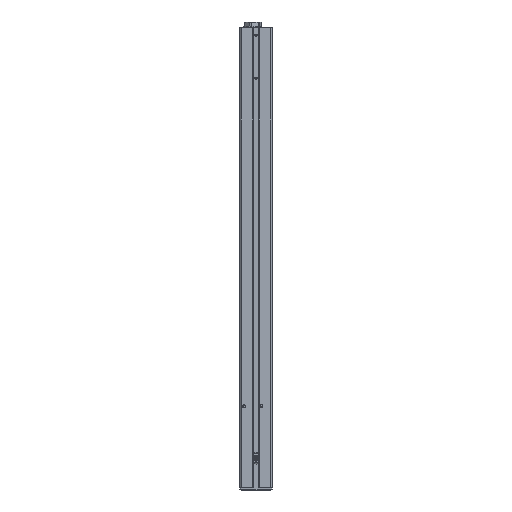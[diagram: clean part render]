
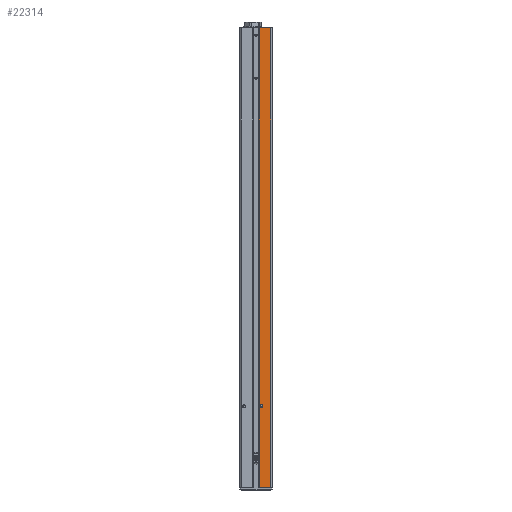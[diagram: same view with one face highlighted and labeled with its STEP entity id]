
A CAD part, top view. The second image highlights one B-rep face of the part: STEP entity #22314.
In plain terms, the highlighted planar face has unit normal (0, 0, 1) as drawn and (-1, 0, 0) by its records, which use the part's own axes.
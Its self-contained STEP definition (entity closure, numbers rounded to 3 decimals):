
#309=LINE('',#32390,#2165);
#920=LINE('',#35284,#2776);
#1596=LINE('',#37651,#3452);
#1597=LINE('',#37655,#3453);
#2165=VECTOR('',#25719,1000.);
#2776=VECTOR('',#27516,1000.);
#3452=VECTOR('',#29736,1000.);
#3453=VECTOR('',#29741,1000.);
#4249=PLANE('',#24628);
#8888=ORIENTED_EDGE('',*,*,#14639,.T.);
#8889=ORIENTED_EDGE('',*,*,#14638,.F.);
#8890=ORIENTED_EDGE('',*,*,#14640,.T.);
#8891=ORIENTED_EDGE('',*,*,#13575,.T.);
#8892=ORIENTED_EDGE('',*,*,#12407,.T.);
#12407=EDGE_CURVE('',#15793,#15792,#309,.T.);
#13575=EDGE_CURVE('',#16815,#15793,#920,.T.);
#14638=EDGE_CURVE('',#17377,#15792,#1596,.T.);
#14639=EDGE_CURVE('',#17378,#17378,#18603,.T.);
#14640=EDGE_CURVE('',#17377,#16815,#1597,.T.);
#15792=VERTEX_POINT('',#32389);
#15793=VERTEX_POINT('',#32391);
#16815=VERTEX_POINT('',#35282);
#17377=VERTEX_POINT('',#37650);
#17378=VERTEX_POINT('',#37654);
#18603=CIRCLE('',#24629,2.);
#19649=EDGE_LOOP('',(#8888));
#19650=EDGE_LOOP('',(#8889,#8890,#8891,#8892));
#20977=FACE_BOUND('',#19649,.T.);
#20978=FACE_BOUND('',#19650,.T.);
#22314=ADVANCED_FACE('',(#20977,#20978),#4249,.F.);
#24628=AXIS2_PLACEMENT_3D('',#37652,#29737,#29738);
#24629=AXIS2_PLACEMENT_3D('',#37653,#29739,#29740);
#25719=DIRECTION('',(0.,0.,1.));
#27516=DIRECTION('',(0.,-1.,0.));
#29736=DIRECTION('',(0.,-1.,0.));
#29737=DIRECTION('',(1.,0.,0.));
#29738=DIRECTION('',(0.,0.,-1.));
#29739=DIRECTION('',(1.,0.,0.));
#29740=DIRECTION('',(0.,0.,-1.));
#29741=DIRECTION('',(0.,0.,-1.));
#32389=CARTESIAN_POINT('',(-45.,0.,43.));
#32390=CARTESIAN_POINT('',(-45.,0.,26.5));
#32391=CARTESIAN_POINT('',(-45.,0.,26.7));
#35282=CARTESIAN_POINT('',(-45.,631.,26.7));
#35284=CARTESIAN_POINT('',(-45.,1000.,26.7));
#37650=CARTESIAN_POINT('',(-45.,631.,43.));
#37651=CARTESIAN_POINT('',(-45.,1000.,43.));
#37652=CARTESIAN_POINT('',(-45.,1000.,26.5));
#37653=CARTESIAN_POINT('',(-45.,112.,30.));
#37654=CARTESIAN_POINT('',(-45.,112.,28.));
#37655=CARTESIAN_POINT('',(-45.,631.,26.5));
